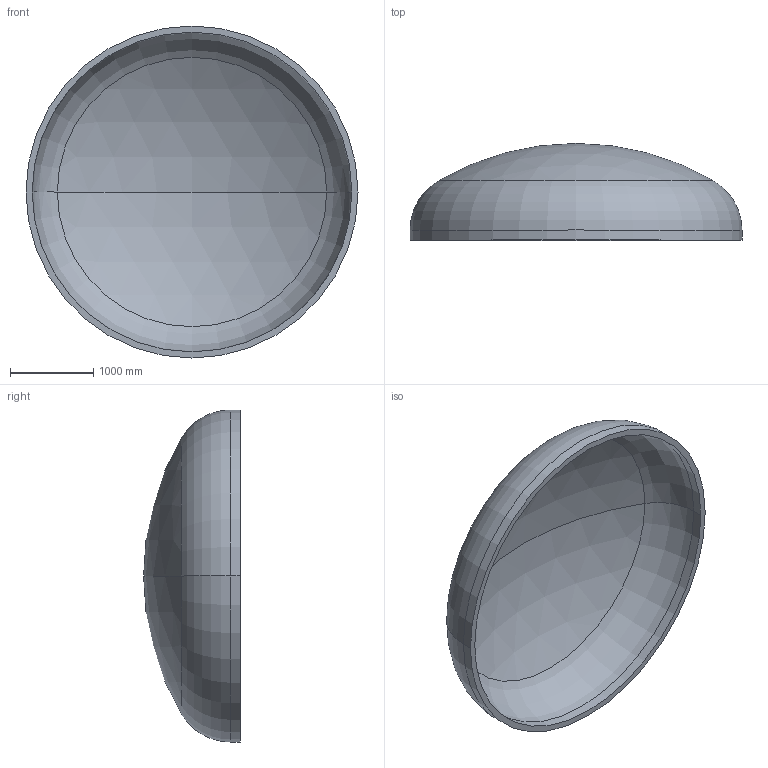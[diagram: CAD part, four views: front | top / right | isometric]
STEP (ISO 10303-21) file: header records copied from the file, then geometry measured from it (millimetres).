
FILE_DESCRIPTION (( 'STEP AP203' ), '1' );
FILE_NAME ('DIN 28013 Korbbogenform_-_Boden DIN 28013 - 4000 x 120 - I - s=74.step', '2016-07-01T22:38:50', ( '' ), ( '' ), 'SwSTEP 2.0', 'SolidWorks 2013', '' );
FILE_SCHEMA (( 'CONFIG_CONTROL_DESIGN' ));
Length unit declared in the file: millimetre
Products named in the file (1): DIN 28013 Korbbogenform_-_Boden DIN 28013 - 4000 x 120 - I - s=74
Bounding box: 4000 x 1166.11 x 4000 mm (x, y, z)
Volume: 1366014497.4 mm3; surface area: 37843474.7 mm2
Topology: 1 solids, 1 shells, 13 faces, 24 edges, 14 vertices
Faces by surface type: torus 4, cylinder 4, sphere 4, plane 1
Entity records: 407 total; most frequent: DIRECTION 72, CARTESIAN_POINT 52, ORIENTED_EDGE 48, AXIS2_PLACEMENT_3D 34, EDGE_CURVE 24, CIRCLE 20, EDGE_LOOP 14, VERTEX_POINT 14
